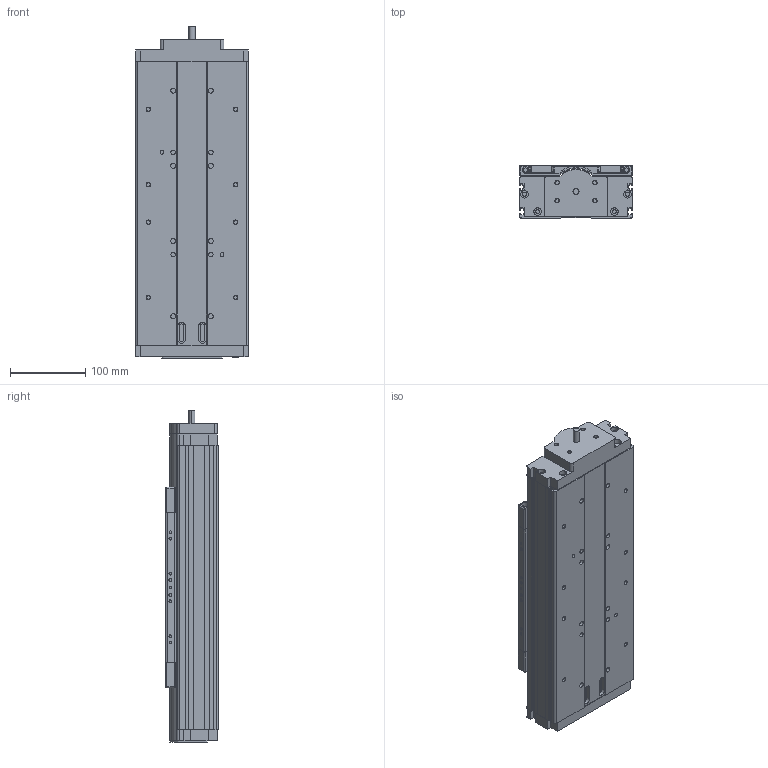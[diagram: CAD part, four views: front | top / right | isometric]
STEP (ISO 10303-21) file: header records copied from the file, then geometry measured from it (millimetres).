
FILE_DESCRIPTION((''),'2;1');
FILE_NAME('406XR-01_ASM','2002-07-12T',('FKrakosh'),(''),'PRO/ENGINEER BY PARAMETRIC TECHNOLOGY CORPORATION, 2000420','PRO/ENGINEER BY PARAMETRIC TECHNOLOGY CORPORATION, 2000420','');
FILE_SCHEMA(('CONFIG_CONTROL_DESIGN'));
Length unit declared in the file: millimetre
Products named in the file (8): 406XR-BASE-01; 406XR-REAR-END-BLK; 406XR-CARRIAGE; 10853610-01; 406XR-FEB-8MM; 10426110; 30321911; 406XR-01_ASM
Assembly tree (8 placements, depth 2):
  406XR-01_ASM
    406XR-BASE-01
    406XR-REAR-END-BLK
    406XR-CARRIAGE
    10853610-01  x2
    406XR-FEB-8MM
    10426110
    30321911
Bounding box: 150 x 69.9 x 441.4 mm (x, y, z)
Volume: 3826249.9 mm3; surface area: 387689.6 mm2
Topology: 8 solids, 54 shells, 840 faces, 2108 edges, 1404 vertices
Faces by surface type: cylinder 422, plane 388, bspline 16, sphere 12, cone 2
Entity records: 23848 total; most frequent: CARTESIAN_POINT 5248, DIRECTION 4054, ORIENTED_EDGE 3526, EDGE_CURVE 1851, AXIS2_PLACEMENT_3D 1537, VERTEX_POINT 1247, VECTOR 980, LINE 980
